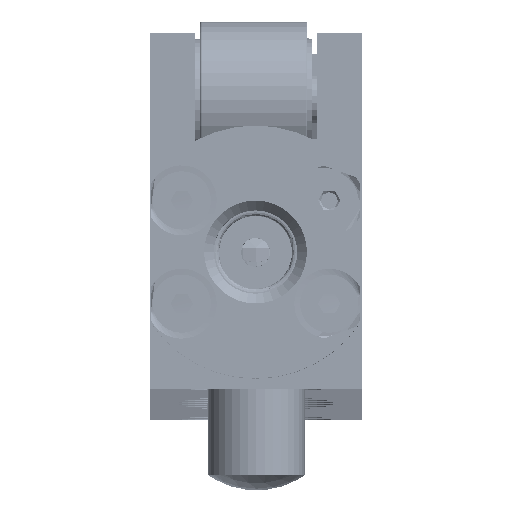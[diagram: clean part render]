
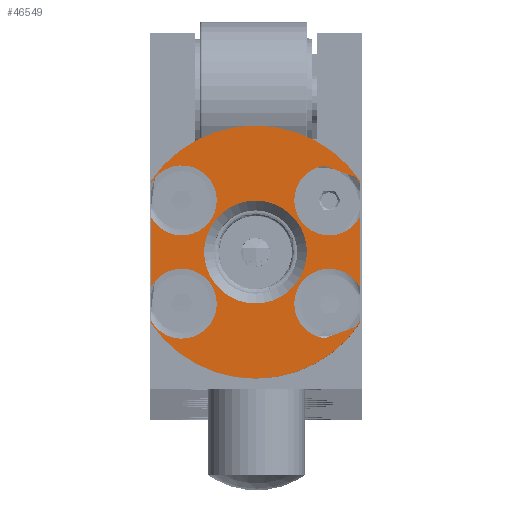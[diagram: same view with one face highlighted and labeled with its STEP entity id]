
A CAD part, top view. The second image highlights one B-rep face of the part: STEP entity #46549.
In plain terms, the highlighted planar face has unit normal (0, 0, 1).
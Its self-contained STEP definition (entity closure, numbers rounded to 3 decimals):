
#1690=FACE_BOUND('',#7237,.T.);
#2091=PLANE('',#50915);
#4408=FACE_OUTER_BOUND('',#7236,.T.);
#7236=EDGE_LOOP('',(#35145,#35146,#35147,#35148,#35149,#35150,#35151,#35152,
#35153,#35154,#35155,#35156,#35157,#35158,#35159,#35160));
#7237=EDGE_LOOP('',(#35161));
#9716=LINE('',#83780,#11421);
#9717=LINE('',#83783,#11422);
#9718=LINE('',#83787,#11423);
#9719=LINE('',#83791,#11424);
#9720=LINE('',#83795,#11425);
#9721=LINE('',#83799,#11426);
#9722=LINE('',#83803,#11427);
#9723=LINE('',#83806,#11428);
#11421=VECTOR('',#61793,10.);
#11422=VECTOR('',#61796,10.);
#11423=VECTOR('',#61799,10.);
#11424=VECTOR('',#61802,10.);
#11425=VECTOR('',#61805,10.);
#11426=VECTOR('',#61808,10.);
#11427=VECTOR('',#61811,10.);
#11428=VECTOR('',#61814,10.);
#13766=CIRCLE('',#50908,3.6);
#13769=CIRCLE('',#50911,3.6);
#13771=CIRCLE('',#50916,3.6);
#13772=CIRCLE('',#50917,3.6);
#13773=CIRCLE('',#50918,13.);
#13774=CIRCLE('',#50919,3.6);
#13775=CIRCLE('',#50920,3.6);
#13776=CIRCLE('',#50921,13.);
#13777=CIRCLE('',#50922,5.283);
#18929=VERTEX_POINT('',#83754);
#18930=VERTEX_POINT('',#83755);
#18931=VERTEX_POINT('',#83759);
#18935=VERTEX_POINT('',#83770);
#18937=VERTEX_POINT('',#83782);
#18938=VERTEX_POINT('',#83784);
#18939=VERTEX_POINT('',#83786);
#18940=VERTEX_POINT('',#83788);
#18941=VERTEX_POINT('',#83790);
#18942=VERTEX_POINT('',#83792);
#18943=VERTEX_POINT('',#83794);
#18944=VERTEX_POINT('',#83796);
#18945=VERTEX_POINT('',#83798);
#18946=VERTEX_POINT('',#83800);
#18947=VERTEX_POINT('',#83802);
#18948=VERTEX_POINT('',#83804);
#18949=VERTEX_POINT('',#83807);
#24889=EDGE_CURVE('',#18931,#18929,#13766,.T.);
#24895=EDGE_CURVE('',#18930,#18935,#13769,.T.);
#24898=EDGE_CURVE('',#18935,#18931,#9716,.T.);
#24899=EDGE_CURVE('',#18929,#18937,#9717,.T.);
#24900=EDGE_CURVE('',#18937,#18938,#13771,.T.);
#24901=EDGE_CURVE('',#18938,#18939,#9718,.T.);
#24902=EDGE_CURVE('',#18939,#18940,#13772,.T.);
#24903=EDGE_CURVE('',#18940,#18941,#9719,.T.);
#24904=EDGE_CURVE('',#18942,#18941,#13773,.T.);
#24905=EDGE_CURVE('',#18942,#18943,#9720,.T.);
#24906=EDGE_CURVE('',#18943,#18944,#13774,.T.);
#24907=EDGE_CURVE('',#18944,#18945,#9721,.T.);
#24908=EDGE_CURVE('',#18945,#18946,#13775,.T.);
#24909=EDGE_CURVE('',#18946,#18947,#9722,.T.);
#24910=EDGE_CURVE('',#18948,#18947,#13776,.T.);
#24911=EDGE_CURVE('',#18948,#18930,#9723,.T.);
#24912=EDGE_CURVE('',#18949,#18949,#13777,.T.);
#35145=ORIENTED_EDGE('',*,*,#24895,.T.);
#35146=ORIENTED_EDGE('',*,*,#24898,.T.);
#35147=ORIENTED_EDGE('',*,*,#24889,.T.);
#35148=ORIENTED_EDGE('',*,*,#24899,.T.);
#35149=ORIENTED_EDGE('',*,*,#24900,.T.);
#35150=ORIENTED_EDGE('',*,*,#24901,.T.);
#35151=ORIENTED_EDGE('',*,*,#24902,.T.);
#35152=ORIENTED_EDGE('',*,*,#24903,.T.);
#35153=ORIENTED_EDGE('',*,*,#24904,.F.);
#35154=ORIENTED_EDGE('',*,*,#24905,.T.);
#35155=ORIENTED_EDGE('',*,*,#24906,.T.);
#35156=ORIENTED_EDGE('',*,*,#24907,.T.);
#35157=ORIENTED_EDGE('',*,*,#24908,.T.);
#35158=ORIENTED_EDGE('',*,*,#24909,.T.);
#35159=ORIENTED_EDGE('',*,*,#24910,.F.);
#35160=ORIENTED_EDGE('',*,*,#24911,.T.);
#35161=ORIENTED_EDGE('',*,*,#24912,.F.);
#46549=ADVANCED_FACE('',(#4408,#1690),#2091,.T.);
#50908=AXIS2_PLACEMENT_3D('',#83760,#61777,#61778);
#50911=AXIS2_PLACEMENT_3D('',#83774,#61784,#61785);
#50915=AXIS2_PLACEMENT_3D('',#83781,#61794,#61795);
#50916=AXIS2_PLACEMENT_3D('',#83785,#61797,#61798);
#50917=AXIS2_PLACEMENT_3D('',#83789,#61800,#61801);
#50918=AXIS2_PLACEMENT_3D('',#83793,#61803,#61804);
#50919=AXIS2_PLACEMENT_3D('',#83797,#61806,#61807);
#50920=AXIS2_PLACEMENT_3D('',#83801,#61809,#61810);
#50921=AXIS2_PLACEMENT_3D('',#83805,#61812,#61813);
#50922=AXIS2_PLACEMENT_3D('',#83808,#61815,#61816);
#61777=DIRECTION('center_axis',(0.,0.,-1.));
#61778=DIRECTION('ref_axis',(-0.342,0.94,0.));
#61784=DIRECTION('center_axis',(0.,0.,-1.));
#61785=DIRECTION('ref_axis',(-0.342,0.94,0.));
#61793=DIRECTION('',(-0.94,-0.342,0.));
#61794=DIRECTION('center_axis',(0.,0.,1.));
#61795=DIRECTION('ref_axis',(1.,0.,0.));
#61796=DIRECTION('',(0.,1.,0.));
#61797=DIRECTION('center_axis',(0.,0.,-1.));
#61798=DIRECTION('ref_axis',(-0.342,-0.94,0.));
#61799=DIRECTION('',(0.94,-0.342,0.));
#61800=DIRECTION('center_axis',(0.,0.,-1.));
#61801=DIRECTION('ref_axis',(-0.342,-0.94,0.));
#61802=DIRECTION('',(0.,1.,0.));
#61803=DIRECTION('center_axis',(0.,0.,-1.));
#61804=DIRECTION('ref_axis',(0.,1.,0.));
#61805=DIRECTION('',(0.,-1.,0.));
#61806=DIRECTION('center_axis',(0.,0.,-1.));
#61807=DIRECTION('ref_axis',(1.,0.,0.));
#61808=DIRECTION('',(0.,-1.,0.));
#61809=DIRECTION('center_axis',(0.,0.,-1.));
#61810=DIRECTION('ref_axis',(1.,0.,0.));
#61811=DIRECTION('',(0.,-1.,0.));
#61812=DIRECTION('center_axis',(0.,0.,-1.));
#61813=DIRECTION('ref_axis',(0.,1.,0.));
#61814=DIRECTION('',(0.,1.,0.));
#61815=DIRECTION('center_axis',(0.,0.,1.));
#61816=DIRECTION('ref_axis',(-1.,0.,0.));
#83754=CARTESIAN_POINT('',(10.7,-7.855,1396.));
#83755=CARTESIAN_POINT('',(10.7,-11.256,1396.));
#83759=CARTESIAN_POINT('',(7.014,-13.119,1396.));
#83760=CARTESIAN_POINT('Origin',(7.527,-9.556,1396.));
#83770=CARTESIAN_POINT('',(10.211,-11.955,1396.));
#83774=CARTESIAN_POINT('Origin',(7.527,-9.556,1396.));
#83780=CARTESIAN_POINT('',(8.106,-12.721,1396.));
#83781=CARTESIAN_POINT('Origin',(-0.05,2.25,1396.));
#83782=CARTESIAN_POINT('',(10.7,-0.645,1396.));
#83783=CARTESIAN_POINT('',(10.7,-4.655,1396.));
#83784=CARTESIAN_POINT('',(7.014,4.619,1396.));
#83785=CARTESIAN_POINT('Origin',(7.527,1.056,1396.));
#83786=CARTESIAN_POINT('',(10.211,3.455,1396.));
#83787=CARTESIAN_POINT('',(6.017,4.982,1396.));
#83788=CARTESIAN_POINT('',(10.7,2.756,1396.));
#83789=CARTESIAN_POINT('Origin',(7.527,1.056,1396.));
#83790=CARTESIAN_POINT('',(10.7,3.06,1396.));
#83791=CARTESIAN_POINT('',(10.7,-4.655,1396.));
#83792=CARTESIAN_POINT('',(-10.8,3.06,1396.));
#83793=CARTESIAN_POINT('Origin',(-0.05,-4.25,1396.));
#83794=CARTESIAN_POINT('',(-10.8,2.756,1396.));
#83795=CARTESIAN_POINT('',(-10.8,2.655,1396.));
#83796=CARTESIAN_POINT('',(-10.8,-0.645,1396.));
#83797=CARTESIAN_POINT('Origin',(-7.627,1.056,1396.));
#83798=CARTESIAN_POINT('',(-10.8,-7.855,1396.));
#83799=CARTESIAN_POINT('',(-10.8,2.655,1396.));
#83800=CARTESIAN_POINT('',(-10.8,-11.256,1396.));
#83801=CARTESIAN_POINT('Origin',(-7.627,-9.556,1396.));
#83802=CARTESIAN_POINT('',(-10.8,-11.56,1396.));
#83803=CARTESIAN_POINT('',(-10.8,2.655,1396.));
#83804=CARTESIAN_POINT('',(10.7,-11.56,1396.));
#83805=CARTESIAN_POINT('Origin',(-0.05,-4.25,1396.));
#83806=CARTESIAN_POINT('',(10.7,-4.655,1396.));
#83807=CARTESIAN_POINT('',(5.233,-4.25,1396.));
#83808=CARTESIAN_POINT('Origin',(-0.05,-4.25,1396.));
